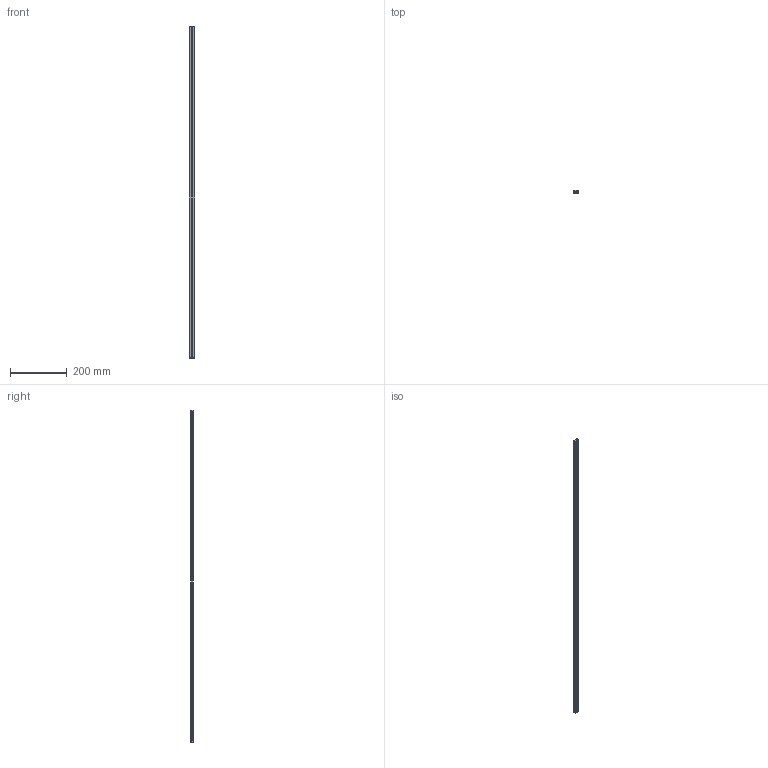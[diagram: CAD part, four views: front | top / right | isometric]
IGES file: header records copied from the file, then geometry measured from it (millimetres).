
Start section: SolidWorks IGES file using analytic representation for surfaces
Global section: file name: C:\Users\JoãoSantos\Desktop\02_3D.2D\01_2020\02_Linear\13_Limit\02_Limit_Flat\Componentes\Limit\LIMIT_FLAT_1165.IGS; native system: SolidWorks 2020; preprocessor: SolidWorks 2020; author: JoãoSantos; date: 201023.152826; units: millimetre
Bounding box: 20.25 x 10.45 x 1165.1 mm (x, y, z)
Surface area: 162036 mm2 (no closed solid volume)
Topology: 0 solids, 0 shells, 274 faces, 2328 edges, 2320 vertices
Faces by surface type: bspline 146, revolution 128
